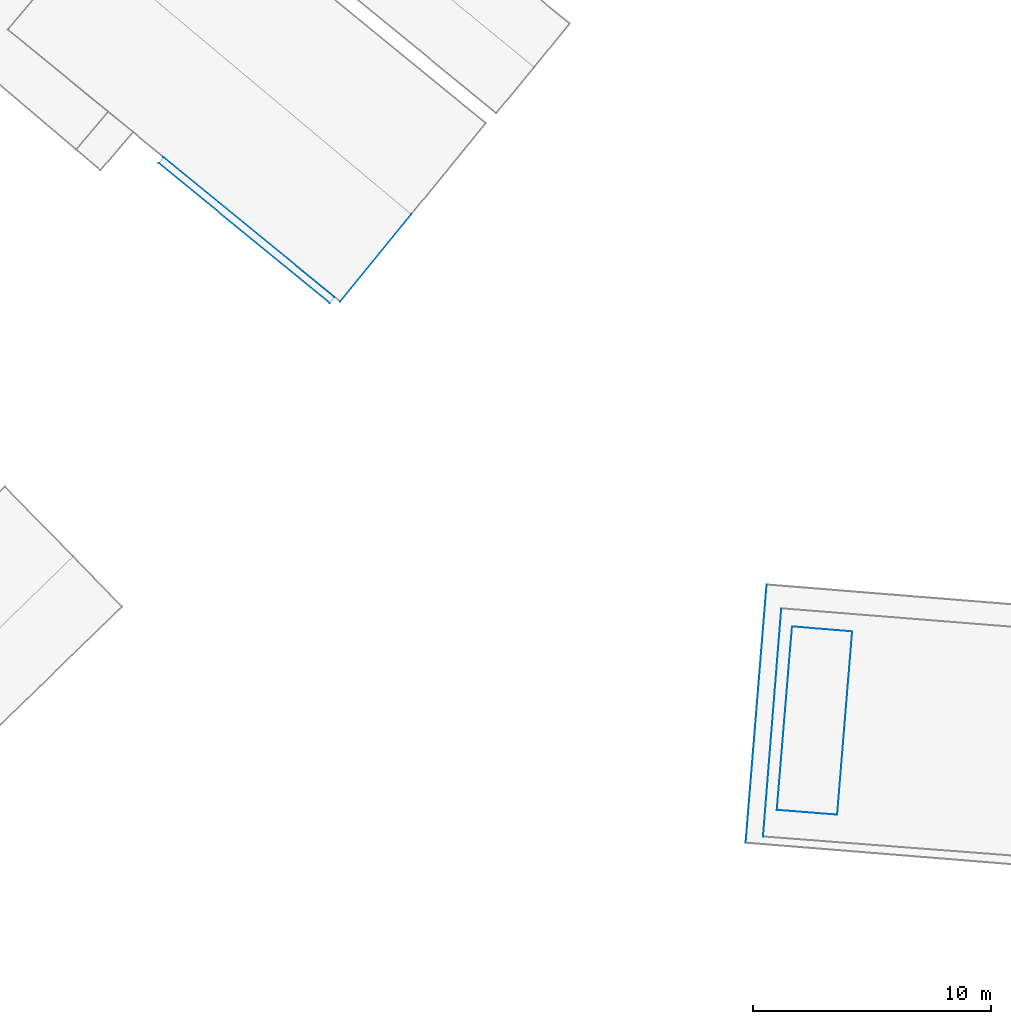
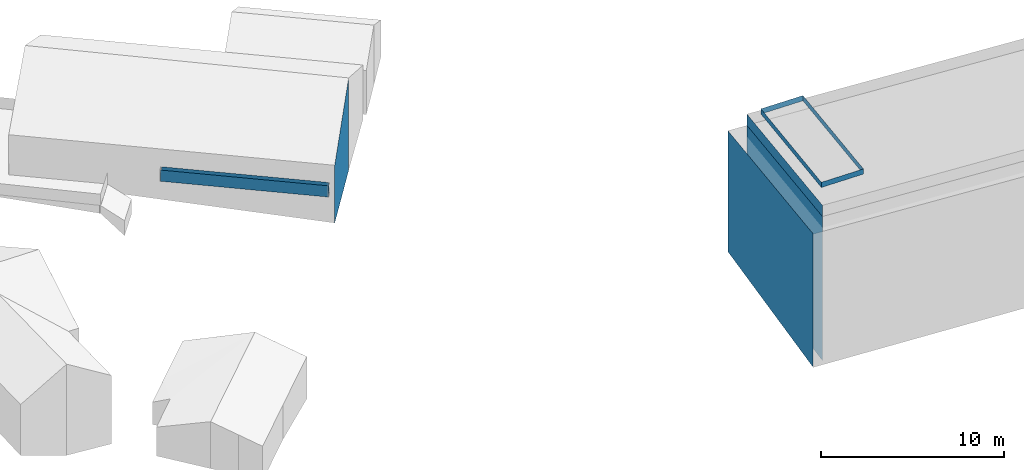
# Not in any storey, part 64 of 136: 17 walls.
"""IFC4 building model written with IfcOpenShell, lengths in metres."""

from ifc_helpers import new_model, entity, si_unit, converted_unit, frame, origin, place, context, subcontext, project, spatial, face_set, surface_model, element, save


model = new_model("IFC4")

# Units and contexts
model_context = context("Model", 3, precision=1e-05, world=origin())
body_context = subcontext(model_context, "Body", "Model", "MODEL_VIEW")
ifc_project = project(units=[converted_unit("PLANEANGLEUNIT", "DEGREE", entity("IfcRatioMeasure", 0.0174532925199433), si_unit("PLANEANGLEUNIT", "RADIAN"), dimensions=[0, 0, 0, 0, 0, 0, 0]), si_unit("AREAUNIT", "SQUARE_METRE"), si_unit("LENGTHUNIT", "METRE")], contexts=[model_context])

# Site, building
site_placement = place(None, origin())
site = spatial("IfcSite", under=ifc_project, at=site_placement, Name="_site")
building_1_placement = place(site_placement, origin())
building_1 = spatial("IfcBuilding", under=site, at=building_1_placement, Name="_building")

# Walls
for number, where, name in (
    (1, (0.0, 0.0, 0.0), "Wall"),
    (2, (0.0, 0.0, 0.0), "Wall"),
):
    element("IfcWall", number, at=place(building_1_placement, frame(where)), inside=building_1, Name=name, PredefinedType="NOTDEFINED", context=body_context, shape_type="SurfaceModel", body=[
        surface_model("IfcFaceBasedSurfaceModel", [(170.49, 117.39, 42.22), (163.3, 123.28, 42.22), (163.3, 123.28, 42.97), (170.49, 117.39, 42.97)], [face_set([[[0, 1, 2, 3]]])]),
    ])
wall_1_placement = place(building_1_placement, origin())
element("IfcWall", 3, at=wall_1_placement, inside=building_1, Name="Wall", PredefinedType="NOTDEFINED", context=body_context, shape_type="SurfaceModel", body=[
    surface_model("IfcFaceBasedSurfaceModel", [(163.5, 123.53, 42.22), (170.69, 117.64, 42.22), (170.69, 117.64, 42.97), (163.5, 123.53, 42.97)], [face_set([[[0, 1, 2, 3]]])]),
])
wall_2_placement = place(building_1_placement, origin())
element("IfcWall", 4, at=wall_2_placement, inside=building_1, Name="Wall", PredefinedType="NOTDEFINED", context=body_context, shape_type="SurfaceModel", body=[
    surface_model("IfcFaceBasedSurfaceModel", [(173.93, 121.12, 46.71), (170.93, 117.45, 44.15), (170.93, 117.45, 40.299), (173.93, 121.12, 40.543)], [face_set([[[0, 1, 2, 3]]])]),
])
wall_3_placement = place(building_1_placement, origin())
element("IfcWall", 5, at=wall_3_placement, inside=building_1, Name="Wall", PredefinedType="NOTDEFINED", context=body_context, shape_type="SurfaceModel", body=[
    surface_model("IfcFaceBasedSurfaceModel", [(163.5, 123.53, 42.22), (170.69, 117.64, 42.22), (170.69, 117.64, 42.97), (163.5, 123.53, 42.97)], [face_set([[[0, 1, 2, 3]]])]),
])

# Building
building_2_placement = place(site_placement, origin())
building_2 = spatial("IfcBuilding", under=site, at=building_2_placement, Name="_building")

# Walls
wall_4_placement = place(building_2_placement, origin())
element("IfcWall", 6, at=wall_4_placement, inside=building_2, Name="Wall", PredefinedType="NOTDEFINED", context=body_context, shape_type="SurfaceModel", body=[
    surface_model("IfcFaceBasedSurfaceModel", [(189.95, 103.78, 49.55), (192.48, 103.57, 49.68), (192.48, 103.57, 49.33), (189.95, 103.78, 49.2)], [face_set([[[0, 1, 2, 3]]])]),
])
wall_5_placement = place(building_2_placement, origin())
element("IfcWall", 7, at=wall_5_placement, inside=building_2, Name="Wall", PredefinedType="NOTDEFINED", context=body_context, shape_type="SurfaceModel", body=[
    surface_model("IfcFaceBasedSurfaceModel", [(189.31, 96.061, 49.55), (189.95, 103.78, 49.55), (189.95, 103.78, 49.2), (189.31, 96.061, 49.2)], [face_set([[[0, 1, 2, 3]]])]),
])
wall_6_placement = place(building_2_placement, origin())
element("IfcWall", 8, at=wall_6_placement, inside=building_2, Name="Wall", PredefinedType="NOTDEFINED", context=body_context, shape_type="SurfaceModel", body=[
    surface_model("IfcFaceBasedSurfaceModel", [(191.85, 95.86, 49.68), (189.31, 96.061, 49.55), (189.31, 96.061, 49.2), (191.85, 95.86, 49.33)], [face_set([[[0, 1, 2, 3]]])]),
])
wall_7_placement = place(building_2_placement, origin())
element("IfcWall", 9, at=wall_7_placement, inside=building_2, Name="Wall", PredefinedType="NOTDEFINED", context=body_context, shape_type="SurfaceModel", body=[
    surface_model("IfcFaceBasedSurfaceModel", [(188.73, 94.94, 48.15), (189.5, 104.54, 48.15), (189.5, 104.54, 39.03), (188.73, 94.94, 38.53)], [face_set([[[0, 1, 2, 3]]])]),
])
wall_8_placement = place(building_2_placement, origin())
element("IfcWall", 10, at=wall_8_placement, inside=building_2, Name="Wall", PredefinedType="NOTDEFINED", context=body_context, shape_type="SurfaceModel", body=[
    surface_model("IfcFaceBasedSurfaceModel", [(191.85, 95.86, 49.68), (189.31, 96.061, 49.55), (189.31, 96.061, 49.2), (191.85, 95.86, 49.33)], [face_set([[[0, 1, 2, 3]]])]),
])
wall_9_placement = place(building_2_placement, origin())
element("IfcWall", 11, at=wall_9_placement, inside=building_2, Name="Wall", PredefinedType="NOTDEFINED", context=body_context, shape_type="SurfaceModel", body=[
    surface_model("IfcFaceBasedSurfaceModel", [(192.48, 103.57, 49.68), (191.85, 95.86, 49.68), (191.85, 95.86, 49.33), (192.48, 103.57, 49.33)], [face_set([[[0, 1, 2, 3]]])]),
])
for number, where, name in (
    (12, (0.0, 0.0, 0.0), "Wall"),
    (13, (0.0, 0.0, 0.0), "Wall"),
):
    element("IfcWall", number, at=place(building_2_placement, frame(where)), inside=building_2, Name=name, PredefinedType="NOTDEFINED", context=body_context, shape_type="SurfaceModel", body=[
        surface_model("IfcFaceBasedSurfaceModel", [(188.73, 94.94, 48.15), (189.5, 104.54, 48.15), (189.5, 104.54, 48.9), (188.73, 94.94, 48.9)], [face_set([[[0, 1, 2, 3]]])]),
    ])
wall_10_placement = place(building_2_placement, origin())
element("IfcWall", 14, at=wall_10_placement, inside=building_2, Name="Wall", PredefinedType="NOTDEFINED", context=body_context, shape_type="SurfaceModel", body=[
    surface_model("IfcFaceBasedSurfaceModel", [(188.0, 94.68, 47.4), (188.88, 105.54, 47.4), (188.88, 105.54, 39.327), (188.0, 94.68, 38.491)], [face_set([[[0, 1, 2, 3]]])]),
])
wall_11_placement = place(building_2_placement, origin())
element("IfcWall", 15, at=wall_11_placement, inside=building_2, Name="Wall", PredefinedType="NOTDEFINED", context=body_context, shape_type="SurfaceModel", body=[
    surface_model("IfcFaceBasedSurfaceModel", [(189.31, 96.061, 49.55), (189.95, 103.78, 49.55), (189.95, 103.78, 49.2), (189.31, 96.061, 49.2)], [face_set([[[0, 1, 2, 3]]])]),
])
wall_12_placement = place(building_2_placement, origin())
element("IfcWall", 16, at=wall_12_placement, inside=building_2, Name="Wall", PredefinedType="NOTDEFINED", context=body_context, shape_type="SurfaceModel", body=[
    surface_model("IfcFaceBasedSurfaceModel", [(189.95, 103.78, 49.55), (192.48, 103.57, 49.68), (192.48, 103.57, 49.33), (189.95, 103.78, 49.2)], [face_set([[[0, 1, 2, 3]]])]),
])
wall_13_placement = place(building_2_placement, origin())
element("IfcWall", 17, at=wall_13_placement, inside=building_2, Name="Wall", PredefinedType="NOTDEFINED", context=body_context, shape_type="SurfaceModel", body=[
    surface_model("IfcFaceBasedSurfaceModel", [(192.48, 103.57, 49.68), (191.85, 95.86, 49.68), (191.85, 95.86, 49.33), (192.48, 103.57, 49.33)], [face_set([[[0, 1, 2, 3]]])]),
])

save(model, "model.ifc")
